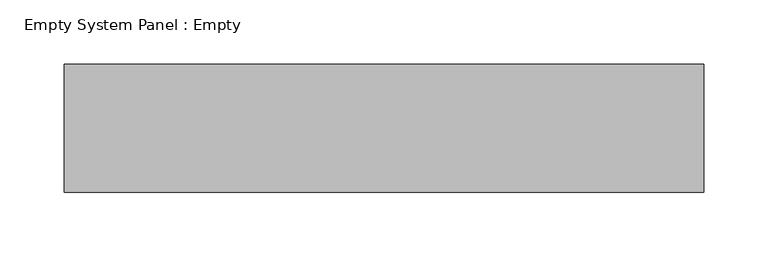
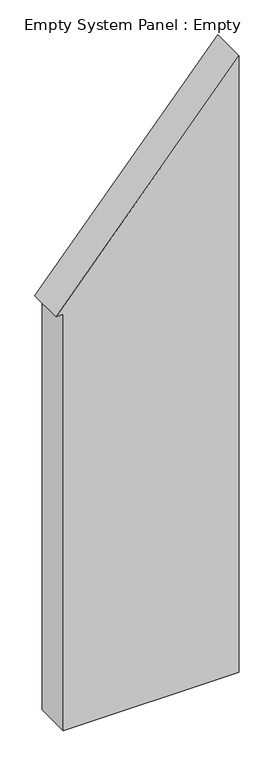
"""IFC4 building model written with IfcOpenShell, lengths in millimetres: plate geometry, Empty System Panel : Empty."""

from ifc_helpers import new_model, si_unit, frame, origin, place, context, project, spatial, polyline, outline, extrude, source, transform, mapped, element, save


def empty_system_panel_empty_e5ab32f9(model_context):
    return source(origin(), model_context, "Body", "SweptSolid", [
        extrude(outline(polyline([(0.0, -229.7473037), (0.0, 249.7473037), (1776.1327651, 249.7473037), (1199.4814379, -249.7473037), (1199.4814379, -229.7473037), (0.0, -229.7473037)])), frame((0.0, -50.0, 0.0), z_axis=(0.0, 1.0, 0.0), x_axis=(0.0, 0.0, 1.0)), (0.0, 0.0, 1.0), 100.0),
    ])


if __name__ == "__main__":
    model = new_model("IFC4")
    model_context = context("Model", 3, world=origin())
    ifc_project = project(units=[si_unit("LENGTHUNIT", "METRE", prefix="MILLI")], contexts=[model_context])
    site = spatial("IfcSite", under=ifc_project)
    building = spatial("IfcBuilding", under=site)
    placement = place(None, origin())
    empty_system_panel_empty_shape = empty_system_panel_empty_e5ab32f9(model_context)
    element("IfcPlate", 1, ObjectType="Empty System Panel : Empty", at=placement, inside=building, context=model_context, shape_type="MappedRepresentation", body=[
        mapped(empty_system_panel_empty_shape, transform((0.0, 0.0, 0.0), x_axis=(1.0, 0.0, 0.0), y_axis=(0.0, 1.0, 0.0), z_axis=(0.0, 0.0, 1.0))),
    ])
    save(model, "model.ifc")
